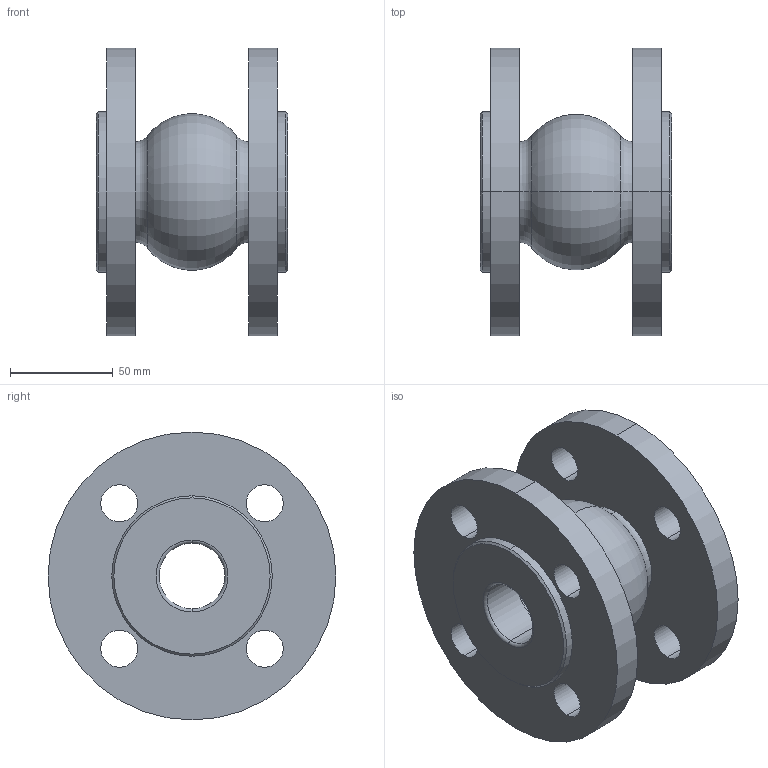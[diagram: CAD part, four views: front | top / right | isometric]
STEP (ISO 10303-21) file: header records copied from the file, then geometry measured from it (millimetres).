
FILE_DESCRIPTION (( 'STEP AP203' ), '1' );
FILE_NAME ('F8_PN16_DN032.STEP', '2012-10-31T08:47:22', ( 'luca.saino' ), ( 'Hewlett-Packard Company' ), 'SwSTEP 2.0', 'SolidWorks 2012', '' );
FILE_SCHEMA (( 'CONFIG_CONTROL_DESIGN' ));
Length unit declared in the file: millimetre
Products named in the file (1): F8_PN16_DN032
Bounding box: 93 x 140 x 140 mm (x, y, z)
Volume: 503290.8 mm3; surface area: 99560.3 mm2
Topology: 1 solids, 1 shells, 58 faces, 132 edges, 80 vertices
Faces by surface type: cylinder 28, torus 16, cone 8, plane 6
Entity records: 1773 total; most frequent: DIRECTION 346, CARTESIAN_POINT 271, ORIENTED_EDGE 264, AXIS2_PLACEMENT_3D 155, EDGE_CURVE 132, CIRCLE 96, VERTEX_POINT 80, EDGE_LOOP 80
